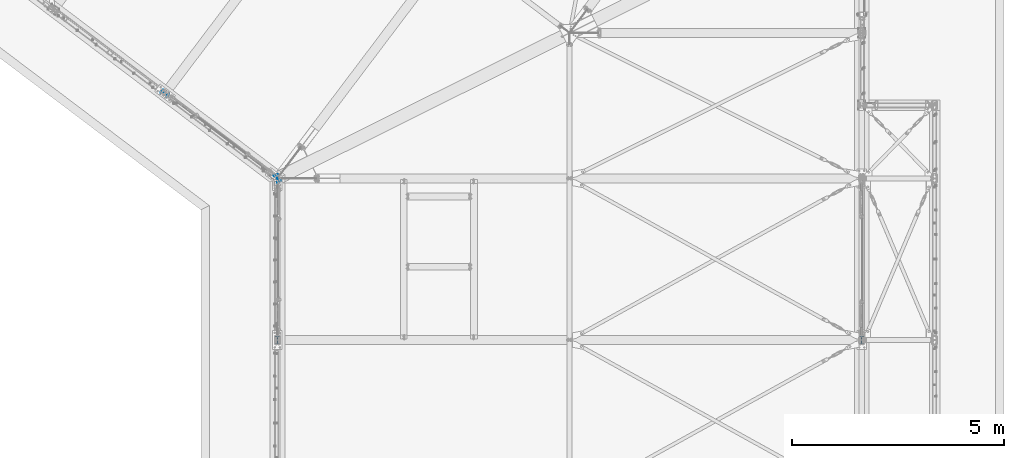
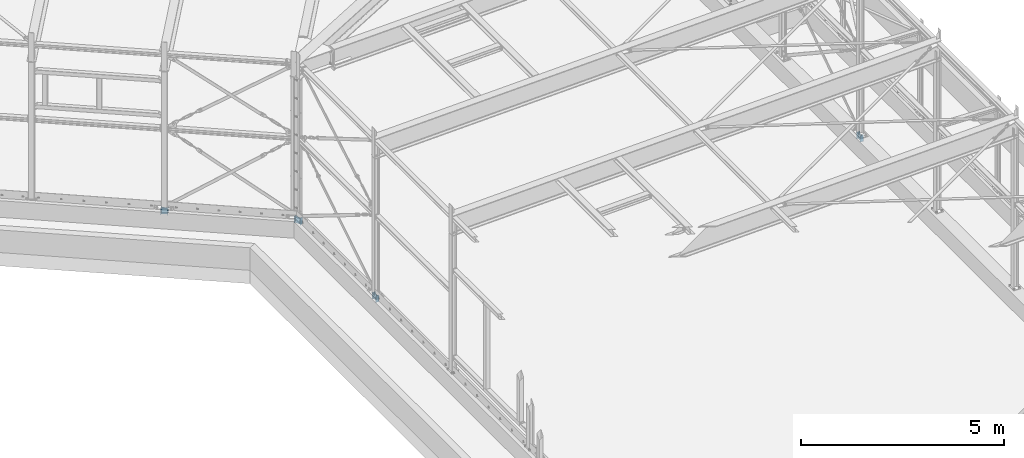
# One storey, part 8 of 476: 4 columns, 8 openings.
"""IFC2X3 building model written with IfcOpenShell, lengths in millimetres."""

import ifcopenshell
import ifcopenshell.guid

model = None  # the IFC model being written
_history = None  # IfcOwnerHistory: only IFC2X3 demands one
_inside = {}  # id of a spatial element -> (the spatial element, [elements in it])
_under = {}  # id of a project, library or spatial element -> (it, [spatial elements below it])
_declared = {}  # id of a project -> (the project, [libraries it declares])
_typed = {}  # id of a type object -> (the type object, [elements of that type])
_made_of = {}  # id of a material, layer set ... -> (it, [elements and type objects made of it])


def new_model(schema):
    """Start an empty IFC model of exactly this schema.

    Asked for "IFC4X3", IfcOpenShell would pick the latest addendum, in which some entities
    have other attributes; the version numbers below select the first issue.
    IFC2X3 requires an IfcOwnerHistory on every rooted entity: one is made here for all.
    """
    global model, _history
    if schema == "IFC4X3":
        model = ifcopenshell.file(schema_version=(4, 3, 0, 0))
    else:
        model = ifcopenshell.file(schema=schema)
    _inside.clear()
    _under.clear()
    _declared.clear()
    _typed.clear()
    _made_of.clear()
    _history = None
    if model.schema == "IFC2X3":
        org = make("IfcOrganization", Name="unknown")
        user = make(
            "IfcPersonAndOrganization",
            ThePerson=make("IfcPerson", FamilyName="unknown"),
            TheOrganization=org,
        )
        app = make(
            "IfcApplication",
            ApplicationDeveloper=org,
            Version="unknown",
            ApplicationFullName="unknown",
            ApplicationIdentifier="unknown",
        )
        _history = make(
            "IfcOwnerHistory",
            OwningUser=user,
            OwningApplication=app,
            ChangeAction="ADDED",
            CreationDate=0,
        )
    return model


def make(cls, **values):
    """One entity of the class cls with the attributes given. An attribute that is None is left unset."""
    return model.create_entity(
        cls, **{name: value for name, value in values.items() if value is not None}
    )


def entity(cls, *values):
    """Any entity or typed value of the class cls, its attributes in the order of the schema. None: left unset."""
    e = model.create_entity(cls)
    for i, value in enumerate(values):
        if value is not None:
            e[i] = value
    return e


def rooted(cls, **values):
    """An entity with a GlobalId (a new one), such as an element, a storey or a relation."""
    return make(cls, GlobalId=ifcopenshell.guid.new(), OwnerHistory=_history, **values)


def si_unit(unit_type, name, prefix=None):
    """IfcSIUnit, for example si_unit("LENGTHUNIT", "METRE", prefix="MILLI")."""
    return make("IfcSIUnit", UnitType=unit_type, Prefix=prefix, Name=name)


def converted_unit(unit_type, name, factor, base, dimensions=None, offset=None):
    """IfcConversionBasedUnit, such as the inch: factor (a typed value) times the base unit."""
    return make(
        "IfcConversionBasedUnit"
        if offset is None
        else "IfcConversionBasedUnitWithOffset",
        ConversionOffset=offset,
        Dimensions=None
        if dimensions is None
        else entity("IfcDimensionalExponents", *dimensions),
        UnitType=unit_type,
        Name=name,
        ConversionFactor=make(
            "IfcMeasureWithUnit", ValueComponent=factor, UnitComponent=base
        ),
    )


def assignment(units):
    """IfcUnitAssignment: the units of a project."""
    return None if units is None else make("IfcUnitAssignment", Units=units)


def point(xyz):
    """IfcCartesianPoint."""
    return None if xyz is None else make("IfcCartesianPoint", Coordinates=xyz)


def direction(xyz):
    """IfcDirection."""
    return None if xyz is None else make("IfcDirection", DirectionRatios=xyz)


def frame(location, z_axis=None, x_axis=None):
    """IfcAxis2Placement3D, a coordinate frame: its origin and axes. An axis left out is left unset."""
    return make(
        "IfcAxis2Placement3D",
        Location=point(location),
        Axis=direction(z_axis),
        RefDirection=direction(x_axis),
    )


def frame_2d(location, x_axis=None):
    """IfcAxis2Placement2D, a coordinate frame in the plane: its origin and x axis."""
    return make(
        "IfcAxis2Placement2D", Location=point(location), RefDirection=direction(x_axis)
    )


def origin():
    """The frame at (0, 0, 0) with its axes left unset."""
    return frame((0.0, 0.0, 0.0))


def origin_with_axes():
    """The frame at (0, 0, 0) with the z axis (0, 0, 1) and the x axis (1, 0, 0) written out."""
    return frame((0.0, 0.0, 0.0), z_axis=(0.0, 0.0, 1.0), x_axis=(1.0, 0.0, 0.0))


def origin_2d():
    """The frame at (0, 0) in the plane with its x axis left unset."""
    return frame_2d((0.0, 0.0))


def origin_2d_with_axis():
    """The frame at (0, 0) in the plane with the x axis (1, 0) written out."""
    return frame_2d((0.0, 0.0), x_axis=(1.0, 0.0))


def place(relative_to, where):
    """IfcLocalPlacement: puts the frame where relative to a parent placement (None: the world)."""
    return make(
        "IfcLocalPlacement", PlacementRelTo=relative_to, RelativePlacement=where
    )


def context(
    kind, dimensions, precision=None, world=None, true_north=None, identifier=None
):
    """IfcGeometricRepresentationContext, for example the 3D "Model" context."""
    return make(
        "IfcGeometricRepresentationContext",
        ContextIdentifier=identifier,
        ContextType=kind,
        CoordinateSpaceDimension=dimensions,
        Precision=precision,
        WorldCoordinateSystem=world,
        TrueNorth=true_north,
    )


def project(units=None, contexts=None):
    """IfcProject with its units and contexts."""
    return rooted(
        "IfcProject",
        Name="project",
        RepresentationContexts=contexts,
        UnitsInContext=assignment(units),
    )


def spatial(cls, under=None, at=None, **own):
    """A site, building, storey or space (cls), placed at a placement, below another one or the project."""
    s = rooted(cls, ObjectPlacement=at, **own)
    if under is not None:
        _under.setdefault(under.id(), (under, []))[1].append(s)
    return s


def profile(cls, at=None, kind="AREA", **sizes):
    """A parametric profile (cls). Its sizes go by their IFC names, for example OverallWidth=200.0."""
    return make(cls, ProfileType=kind, Position=at, **sizes)


def circle(**sizes):
    """IfcCircleProfileDef."""
    return profile("IfcCircleProfileDef", **sizes)


def i_section(**sizes):
    """IfcIShapeProfileDef."""
    return profile("IfcIShapeProfileDef", **sizes)


def extrude(swept, where, along, depth):
    """IfcExtrudedAreaSolid: the profile swept, set in the frame where, extruded along a direction by depth."""
    return make(
        "IfcExtrudedAreaSolid",
        SweptArea=swept,
        Position=where,
        ExtrudedDirection=direction(along),
        Depth=depth,
    )


def shape(context_of_items, identifier, shape_type, items):
    """IfcShapeRepresentation: the items that make up one representation, for example the "Body"."""
    return make(
        "IfcShapeRepresentation",
        ContextOfItems=context_of_items,
        RepresentationIdentifier=identifier,
        RepresentationType=shape_type,
        Items=items,
    )


def material(Name=None, Category=None):
    """IfcMaterial."""
    return make("IfcMaterial", Name=Name, Category=Category)


def made_of(thing, what):
    """Note that an element or type object is made of a material, layer set ...; save() writes the relation."""
    if what is not None:
        _made_of.setdefault(what.id(), (what, []))[1].append(thing)
    return thing


def element(
    cls,
    number,
    at=None,
    inside=None,
    cuts=None,
    type_object=None,
    material=None,
    context=None,
    identifier="Body",
    shape_type=None,
    held_by="IfcProductDefinitionShape",
    body=None,
    shapes=None,
    **own,
):
    """One element of the class cls, such as IfcWall. Its Tag is "e" and its number.

    at: its placement. inside: the storey or other place that contains it. cuts: it is an
    opening in that element (IfcRelVoidsElement). A single representation is given by context,
    identifier, shape_type and body (its items); several are given by shapes. held_by: the class
    of the entity that holds the representations. save() writes the other relations.
    """
    e = rooted(cls, Tag="e%d" % number, ObjectPlacement=at, **own)
    if body is not None:
        shapes = [shape(context, identifier, shape_type, body)]
    if shapes is not None:
        e.Representation = make(held_by, Representations=shapes)
    if inside is not None:
        _inside.setdefault(inside.id(), (inside, []))[1].append(e)
    if cuts is not None:
        rooted(
            "IfcRelVoidsElement", RelatingBuildingElement=cuts, RelatedOpeningElement=e
        )
    if type_object is not None:
        _typed.setdefault(type_object.id(), (type_object, []))[1].append(e)
    return made_of(e, material)


def aggregate(whole, parts):
    """IfcRelAggregates: a whole, such as a stair, and the parts it consists of."""
    return rooted("IfcRelAggregates", RelatingObject=whole, RelatedObjects=parts)


def save(model, path):
    """Write the relations noted so far, then the file.

    IfcRelAggregates (storeys below a building ...), IfcRelContainedInSpatialStructure (elements
    in a storey), IfcRelDefinesByType, IfcRelAssociatesMaterial and IfcRelDeclares: one each for
    every whole, place, type object, material and project.
    """
    for whole, parts in _under.values():
        aggregate(whole, parts)
    for where, things in _inside.values():
        rooted(
            "IfcRelContainedInSpatialStructure",
            RelatedElements=things,
            RelatingStructure=where,
        )
    for kind, things in _typed.values():
        rooted("IfcRelDefinesByType", RelatedObjects=things, RelatingType=kind)
    for what, things in _made_of.values():
        rooted("IfcRelAssociatesMaterial", RelatedObjects=things, RelatingMaterial=what)
    for by, libraries in _declared.values():
        rooted("IfcRelDeclares", RelatingContext=by, RelatedDefinitions=libraries)
    model.write(path)


model = new_model("IFC2X3")

# Units and contexts
model_context = context("Model", 3, precision=1e-09, world=origin_with_axes())
ifc_project = project(units=[si_unit("LENGTHUNIT", "METRE", prefix="MILLI"), si_unit("AREAUNIT", "SQUARE_METRE"), si_unit("VOLUMEUNIT", "CUBIC_METRE"), converted_unit("PLANEANGLEUNIT", "DEGREE", entity("IfcPlaneAngleMeasure", 0.01745329), si_unit("PLANEANGLEUNIT", "RADIAN"), dimensions=[0, 0, 0, 0, 0, 0, 0])], contexts=[model_context])

# Site, building, storey
site_placement = place(None, origin_with_axes())
site = spatial("IfcSite", under=ifc_project, at=site_placement, Name="mKR Teilneubau & Sanierung BA1 - Ostfildern", CompositionType="ELEMENT")
building_placement = place(site_placement, origin_with_axes())
building = spatial("IfcBuilding", under=site, at=building_placement, Name="Struktur 1", CompositionType="ELEMENT")
storey_placement = place(building_placement, origin_with_axes())
storey = spatial("IfcBuildingStorey", under=building, at=storey_placement, Name="Default Storey", CompositionType="ELEMENT", Elevation=0.0)

# Column, openings
ifc_material = material(Name="S235JR")
column_1_placement = place(None, frame((5511.551298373, -3943.90111112, 530.0), z_axis=(0.0, 0.0, 1.0), x_axis=(0.602734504, 0.797941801, 0.0)))
column_1 = element("IfcColumn", 1, at=column_1_placement, inside=storey, material=ifc_material, Name="AnchorBeam", ObjectType="AnchorBeam", context=model_context, shape_type="SweptSolid", body=[
    extrude(i_section(OverallWidth=91.0, OverallDepth=180.0, WebThickness=5.3, FlangeThickness=8.0, FilletRadius=9.0, at=origin_2d()), origin(), (0.0, 0.0, -1.0), 200.0),
])
opening_1_placement = place(column_1_placement, frame((-3.15, 65.0, -15.0), z_axis=(1.0, 0.0, 0.0), x_axis=(0.0, 0.0, -1.0)))
element("IfcOpeningElement", 2, at=opening_1_placement, cuts=column_1, ObjectType="Opening", context=model_context, shape_type="SweptSolid", body=[
    extrude(circle(Radius=6.001, at=origin_2d_with_axis()), origin(), (0.0, 0.0, 1.0), 6.3),
])
opening_2_placement = place(column_1_placement, frame((-3.15, -65.0, -15.0), z_axis=(1.0, 0.0, 0.0), x_axis=(0.0, 0.0, -1.0)))
element("IfcOpeningElement", 3, at=opening_2_placement, cuts=column_1, ObjectType="Opening", context=model_context, shape_type="SweptSolid", body=[
    extrude(circle(Radius=6.001, at=origin_2d_with_axis()), origin(), (0.0, 0.0, 1.0), 6.3),
])

column_2_placement = place(None, frame((8165.608764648, -9765.67387897, 530.0), z_axis=(0.0, 0.0, 1.0), x_axis=(1.0, 0.0, 0.0)))
column_2 = element("IfcColumn", 4, at=column_2_placement, inside=storey, material=ifc_material, Name="AnchorBeam", ObjectType="AnchorBeam", context=model_context, shape_type="SweptSolid", body=[
    extrude(i_section(OverallWidth=91.0, OverallDepth=180.0, WebThickness=5.3, FlangeThickness=8.0, FilletRadius=9.0, at=origin_2d()), origin(), (0.0, 0.0, -1.0), 200.0),
])
opening_3_placement = place(column_2_placement, frame((-3.15, 65.0, -15.0), z_axis=(1.0, 0.0, 0.0), x_axis=(0.0, 0.0, -1.0)))
element("IfcOpeningElement", 5, at=opening_3_placement, cuts=column_2, ObjectType="Opening", context=model_context, shape_type="SweptSolid", body=[
    extrude(circle(Radius=6.001, at=origin_2d_with_axis()), origin(), (0.0, 0.0, 1.0), 6.3),
])
opening_4_placement = place(column_2_placement, frame((-3.15, -65.0, -15.0), z_axis=(1.0, 0.0, 0.0), x_axis=(0.0, 0.0, -1.0)))
element("IfcOpeningElement", 6, at=opening_4_placement, cuts=column_2, ObjectType="Opening", context=model_context, shape_type="SweptSolid", body=[
    extrude(circle(Radius=6.001, at=origin_2d_with_axis()), origin(), (0.0, 0.0, 1.0), 6.3),
])

column_3_placement = place(None, frame((21965.608764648, -9765.67387897, 530.0), z_axis=(0.0, 0.0, 1.0), x_axis=(1.0, 0.0, 0.0)))
column_3 = element("IfcColumn", 7, at=column_3_placement, inside=storey, material=ifc_material, Name="AnchorBeam", ObjectType="AnchorBeam", context=model_context, shape_type="SweptSolid", body=[
    extrude(i_section(OverallWidth=91.0, OverallDepth=180.0, WebThickness=5.3, FlangeThickness=8.0, FilletRadius=9.0, at=origin_2d()), origin(), (0.0, 0.0, -1.0), 200.0),
])
opening_5_placement = place(column_3_placement, frame((-3.15, 65.0, -15.0), z_axis=(1.0, 0.0, 0.0), x_axis=(0.0, 0.0, -1.0)))
element("IfcOpeningElement", 8, at=opening_5_placement, cuts=column_3, ObjectType="Opening", context=model_context, shape_type="SweptSolid", body=[
    extrude(circle(Radius=6.001, at=origin_2d_with_axis()), origin(), (0.0, 0.0, 1.0), 6.3),
])
opening_6_placement = place(column_3_placement, frame((-3.15, -65.0, -15.0), z_axis=(1.0, 0.0, 0.0), x_axis=(0.0, 0.0, -1.0)))
element("IfcOpeningElement", 9, at=opening_6_placement, cuts=column_3, ObjectType="Opening", context=model_context, shape_type="SweptSolid", body=[
    extrude(circle(Radius=6.001, at=origin_2d_with_axis()), origin(), (0.0, 0.0, 1.0), 6.3),
])

column_4_placement = place(None, frame((8165.608730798, -5948.675304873, 530.0), z_axis=(1.18e-07, 0.0, 1.0), x_axis=(-0.895163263, -0.445738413, 1.32e-07)))
column_4 = element("IfcColumn", 10, at=column_4_placement, inside=storey, material=ifc_material, Name="AnchorBeam", ObjectType="AnchorBeam", context=model_context, shape_type="SweptSolid", body=[
    extrude(i_section(OverallWidth=91.0, OverallDepth=180.0, WebThickness=5.3, FlangeThickness=8.0, FilletRadius=9.0, at=origin_2d()), origin(), (0.0, 0.0, -1.0), 200.0),
])
opening_7_placement = place(column_4_placement, frame((-3.15, 65.0, -14.998991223), z_axis=(1.0, 0.0, 0.0), x_axis=(0.0, 0.0, -1.0)))
element("IfcOpeningElement", 11, at=opening_7_placement, cuts=column_4, ObjectType="Opening", context=model_context, shape_type="SweptSolid", body=[
    extrude(circle(Radius=6.001, at=origin_2d_with_axis()), origin(), (0.0, 0.0, 1.0), 6.3),
])
opening_8_placement = place(column_4_placement, frame((-3.15, -65.0, -14.998991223), z_axis=(1.0, 0.0, 0.0), x_axis=(0.0, 0.0, -1.0)))
element("IfcOpeningElement", 12, at=opening_8_placement, cuts=column_4, ObjectType="Opening", context=model_context, shape_type="SweptSolid", body=[
    extrude(circle(Radius=6.001, at=origin_2d_with_axis()), origin(), (0.0, 0.0, 1.0), 6.3),
])

save(model, "model.ifc")
